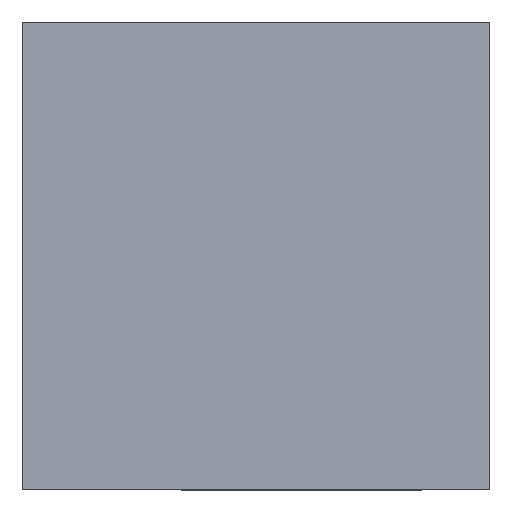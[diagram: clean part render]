
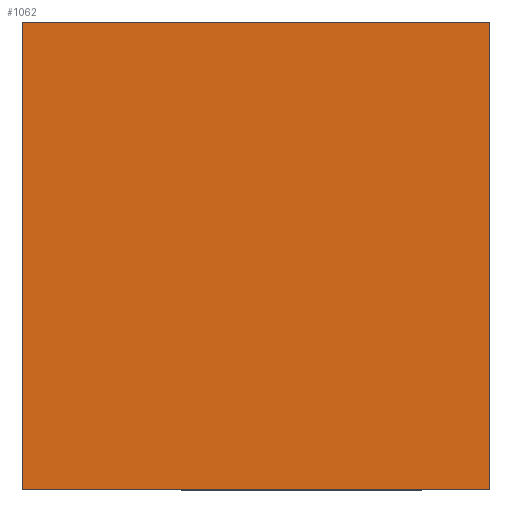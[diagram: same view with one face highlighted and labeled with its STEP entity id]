
A CAD part, top view. The second image highlights one B-rep face of the part: STEP entity #1062.
In plain terms, the highlighted planar face has unit normal (0, 0, 1).
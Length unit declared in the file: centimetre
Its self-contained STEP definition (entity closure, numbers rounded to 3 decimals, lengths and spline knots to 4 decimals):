
#6 = VERTEX_POINT ( 'NONE', #396 ) ;
#24 = CARTESIAN_POINT ( 'NONE',  ( 1000., 1000., 1000. ) ) ;
#63 = DIRECTION ( 'NONE',  ( 0., -1., 0. ) ) ;
#141 = ORIENTED_EDGE ( 'NONE', *, *, #420, .T. ) ;
#152 = AXIS2_PLACEMENT_3D ( 'NONE', #1516, #1368, #1243 ) ;
#279 = LINE ( 'NONE', #433, #1196 ) ;
#320 = LINE ( 'NONE', #326, #911 ) ;
#324 = VERTEX_POINT ( 'NONE', #980 ) ;
#326 = CARTESIAN_POINT ( 'NONE',  ( 0., 0., 1000. ) ) ;
#363 = CARTESIAN_POINT ( 'NONE',  ( 1000., 1000., 1000. ) ) ;
#396 = CARTESIAN_POINT ( 'NONE',  ( 0., 1000., 1000. ) ) ;
#420 = EDGE_CURVE ( 'NONE', #324, #1594, #320, .T. ) ;
#433 = CARTESIAN_POINT ( 'NONE',  ( 0., 1000., 1000. ) ) ;
#437 = VECTOR ( 'NONE', #63, 100. ) ;
#438 = DIRECTION ( 'NONE',  ( 1., 0., 0. ) ) ;
#465 = EDGE_CURVE ( 'NONE', #6, #324, #697, .T. ) ;
#493 = EDGE_LOOP ( 'NONE', ( #1342, #141, #1620, #722 ) ) ;
#494 = LINE ( 'NONE', #24, #859 ) ;
#530 = DIRECTION ( 'NONE',  ( -1., 0., 0. ) ) ;
#597 = EDGE_CURVE ( 'NONE', #1468, #6, #279, .T. ) ;
#697 = LINE ( 'NONE', #1190, #437 ) ;
#722 = ORIENTED_EDGE ( 'NONE', *, *, #597, .T. ) ;
#859 = VECTOR ( 'NONE', #1122, 100. ) ;
#873 = EDGE_CURVE ( 'NONE', #1594, #1468, #494, .T. ) ;
#875 = FACE_OUTER_BOUND ( 'NONE', #493, .T. ) ;
#898 = PLANE ( 'NONE',  #152 ) ;
#911 = VECTOR ( 'NONE', #438, 100. ) ;
#980 = CARTESIAN_POINT ( 'NONE',  ( 0., 0., 1000. ) ) ;
#1020 = CARTESIAN_POINT ( 'NONE',  ( 1000., 0., 1000. ) ) ;
#1062 = ADVANCED_FACE ( 'NONE', ( #875 ), #898, .T. ) ;
#1122 = DIRECTION ( 'NONE',  ( 0., 1., 0. ) ) ;
#1190 = CARTESIAN_POINT ( 'NONE',  ( 0., 1000., 1000. ) ) ;
#1196 = VECTOR ( 'NONE', #530, 100. ) ;
#1243 = DIRECTION ( 'NONE',  ( 1., 0., 0. ) ) ;
#1342 = ORIENTED_EDGE ( 'NONE', *, *, #465, .T. ) ;
#1368 = DIRECTION ( 'NONE',  ( 0., 0., 1. ) ) ;
#1468 = VERTEX_POINT ( 'NONE', #363 ) ;
#1516 = CARTESIAN_POINT ( 'NONE',  ( 0., 0., 1000. ) ) ;
#1594 = VERTEX_POINT ( 'NONE', #1020 ) ;
#1620 = ORIENTED_EDGE ( 'NONE', *, *, #873, .T. ) ;
